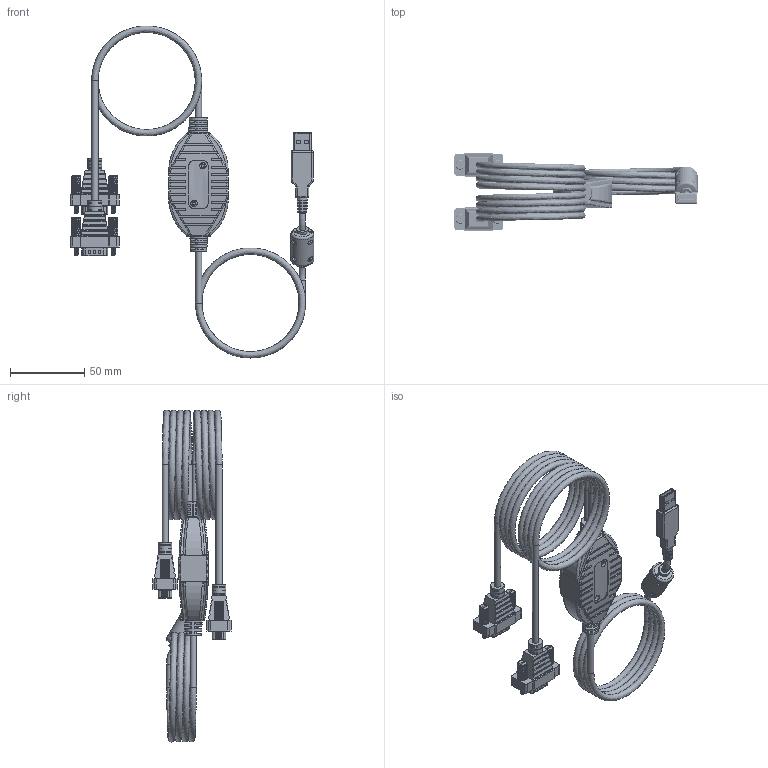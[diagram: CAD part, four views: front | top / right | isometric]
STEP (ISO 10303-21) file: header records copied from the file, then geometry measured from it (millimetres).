
FILE_DESCRIPTION(/* description */ (''),/* implementation_level */ '2;1');
FILE_NAME(/* name */ '/Users/leo/Desktop/Coolgear May/USA-FTDI2X/USA-FTDI2X Model3D LPV1.step',/* time_stamp */ '2021-05-25T10:55:48-04:00',/* author */ (''),/* organization */ (''),/* preprocessor_version */ 'ST-DEVELOPER v18.1',/* originating_system */ 'Autodesk Translation Framework v10.6.0.1341',/* authorisation */ '');
FILE_SCHEMA (('AUTOMOTIVE_DESIGN { 1 0 10303 214 3 1 1 }'));
Products named in the file (15): USA-FTDI2X; Component1; Component4; Cord Usb v2; USB Cord v3; Component8; Cord; USB Cable Head; Filter\; Cord (1); Body10 (1); Component14; 8609N11_FILTERED D-SUB CONNECTOR; 91746A832; Component17
Assembly tree (19 placements, depth 3):
  USA-FTDI2X
    Component1
    Component4
    Cord Usb v2
      USB Cord v3
      Component8
      Cord
      USB Cable Head
      Filter\
    Cord (1)
    Body10 (1)
    Component14  x2
    8609N11_FILTERED D-SUB CONNECTOR  x2
    91746A832  x4
    Component17
Bounding box: 164.41 x 53 x 224.31 mm (x, y, z)
Volume: 82567.4 mm3; surface area: 73713.3 mm2
Topology: 20 solids, 22 shells, 4479 faces, 11366 edges, 7089 vertices
Faces by surface type: plane 2928, cylinder 1239, bspline 114, torus 82, sphere 78, cone 38
Full cylindrical faces by diameter (mm): 1 x36, 2 x4, 2.02 x64, 2.45 x2, 2.845 x68, 3 x8, 4 x4, 4.3 x16, 4.4 x4, 6 x2, 8 x2, 9.34 x2, 10 x2, 10.4 x2, 15.4 x1
Entity records: 158472 total; most frequent: CARTESIAN_POINT 48268, DIRECTION 24732, ORIENTED_EDGE 22472, EDGE_CURVE 11236, AXIS2_PLACEMENT_3D 10076, VERTEX_POINT 7089, EDGE_LOOP 4841, LINE 4580
